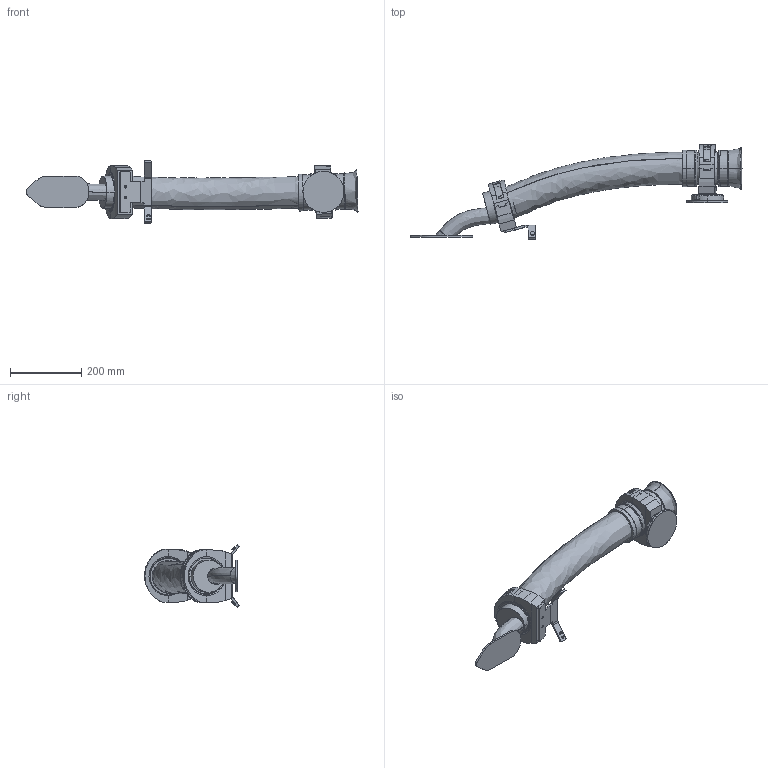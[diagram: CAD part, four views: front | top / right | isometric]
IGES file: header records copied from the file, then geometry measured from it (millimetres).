
Start section: SolidWorks IGES file using analytic representation for surfaces
Global section: file name: C:\Data\SAP_DOC\IRB6740_lightweight\6750S\IRB 6750S ASM\IRB6750S-LID-SW_270kg-320_OC_02_SW_J\IRB6750S-LID-SW_270kg-320_OC_02_IGES_J\IRB6750S-LID_ALL-320-OC_00_LINK04_CABLE.igs; native system: SolidWorks 2024; preprocessor: SolidWorks 2024; author: SEJAOLS6; date: 260507.084037; units: millimetre
Bounding box: 929.81 x 265.3 x 174.65 mm (x, y, z)
Surface area: 397913 mm2 (no closed solid volume)
Topology: 0 solids, 0 shells, 388 faces, 7702 edges, 7702 vertices
Faces by surface type: bspline 220, revolution 168
